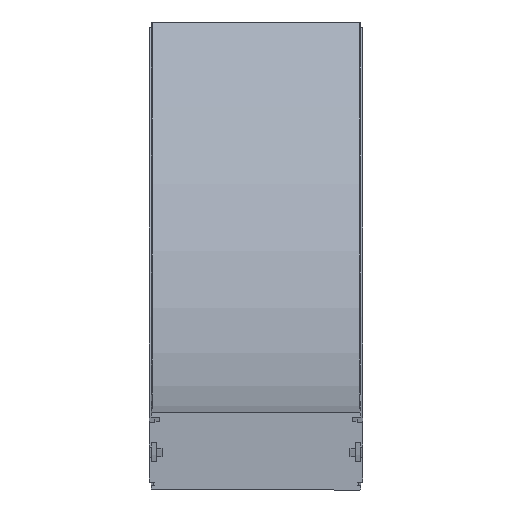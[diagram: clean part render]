
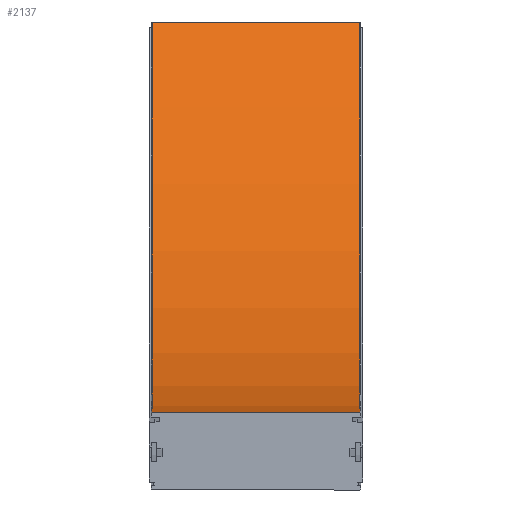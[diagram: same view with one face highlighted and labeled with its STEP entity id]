
A CAD part, front view. The second image highlights one B-rep face of the part: STEP entity #2137.
In plain terms, the highlighted cylindrical face has radius 818 mm (diameter 1636 mm), a partial arc.
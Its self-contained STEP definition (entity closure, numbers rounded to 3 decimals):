
#62=CYLINDRICAL_SURFACE('',#2337,818.);
#225=CIRCLE('',#2336,818.);
#226=CIRCLE('',#2338,818.);
#336=FACE_OUTER_BOUND('',#454,.T.);
#454=EDGE_LOOP('',(#1769,#1770,#1771,#1772));
#615=LINE('',#8201,#793);
#616=LINE('',#8203,#794);
#793=VECTOR('',#2838,10.);
#794=VECTOR('',#2839,10.);
#1005=VERTEX_POINT('',#8194);
#1006=VERTEX_POINT('',#8196);
#1007=VERTEX_POINT('',#8200);
#1008=VERTEX_POINT('',#8202);
#1304=EDGE_CURVE('',#1005,#1006,#225,.T.);
#1305=EDGE_CURVE('',#1007,#1005,#615,.T.);
#1306=EDGE_CURVE('',#1008,#1006,#616,.T.);
#1307=EDGE_CURVE('',#1007,#1008,#226,.T.);
#1769=ORIENTED_EDGE('',*,*,#1305,.T.);
#1770=ORIENTED_EDGE('',*,*,#1304,.T.);
#1771=ORIENTED_EDGE('',*,*,#1306,.F.);
#1772=ORIENTED_EDGE('',*,*,#1307,.F.);
#2137=ADVANCED_FACE('',(#336),#62,.F.);
#2336=AXIS2_PLACEMENT_3D('',#8198,#2834,#2835);
#2337=AXIS2_PLACEMENT_3D('',#8199,#2836,#2837);
#2338=AXIS2_PLACEMENT_3D('',#8204,#2840,#2841);
#2834=DIRECTION('center_axis',(1.,0.,0.));
#2835=DIRECTION('ref_axis',(0.,0.,-1.));
#2836=DIRECTION('center_axis',(1.,0.,0.));
#2837=DIRECTION('ref_axis',(0.,0.,-1.));
#2838=DIRECTION('',(1.,0.,0.));
#2839=DIRECTION('',(1.,0.,0.));
#2840=DIRECTION('center_axis',(1.,0.,0.));
#2841=DIRECTION('ref_axis',(0.,0.,-1.));
#8194=CARTESIAN_POINT('',(108.5,0.,42.));
#8196=CARTESIAN_POINT('',(108.5,708.409,451.));
#8198=CARTESIAN_POINT('Origin',(108.5,0.,860.));
#8199=CARTESIAN_POINT('Origin',(-54.25,0.,860.));
#8200=CARTESIAN_POINT('',(-108.5,0.,42.));
#8201=CARTESIAN_POINT('',(-108.5,0.,42.));
#8202=CARTESIAN_POINT('',(-108.5,708.409,451.));
#8203=CARTESIAN_POINT('',(-108.5,708.409,451.));
#8204=CARTESIAN_POINT('Origin',(-108.5,0.,860.));
